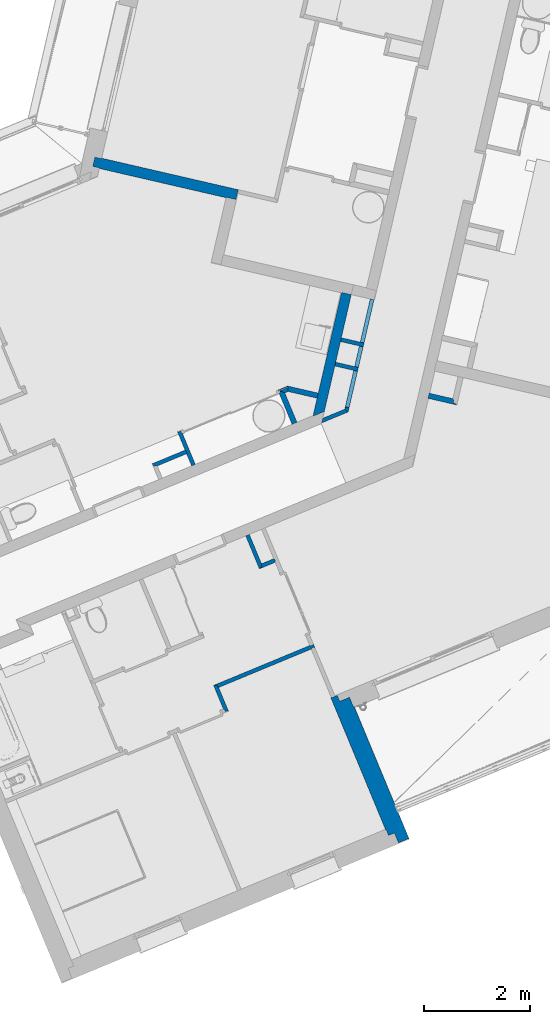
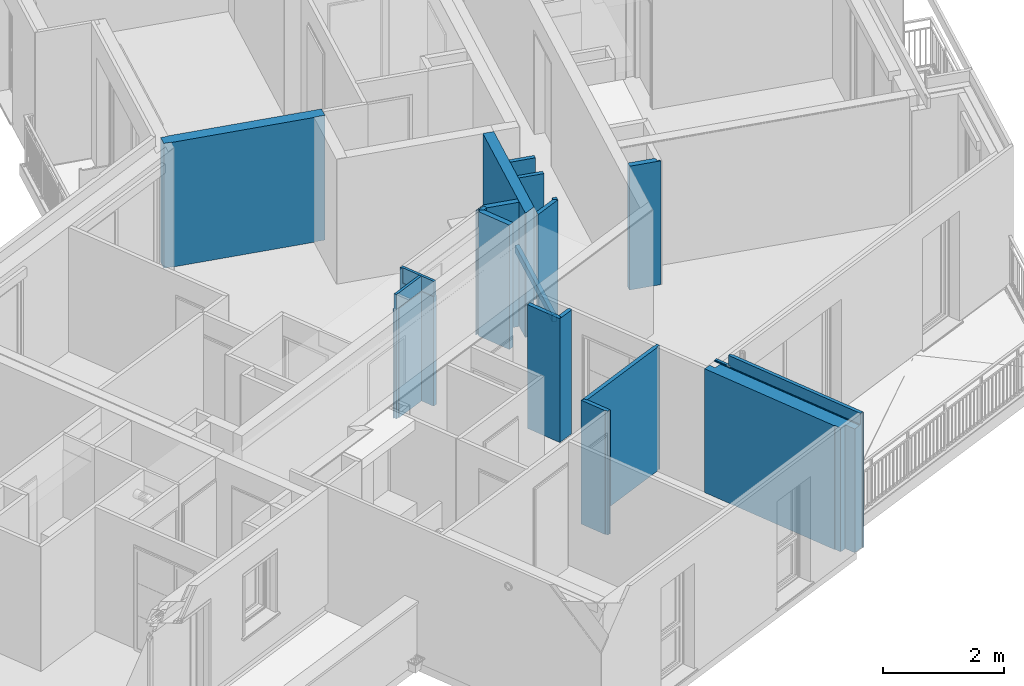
# One storey, part 39 of 91: 18 walls.
"""IFC2X3 building model written with IfcOpenShell, lengths in metres."""

from ifc_helpers import new_model, entity, si_unit, converted_unit, derived_unit, money_unit, direction, frame, origin_with_axes, place, context, subcontext, project, spatial, faceted_brep, material, material_list, type_object, element, save


model = new_model("IFC2X3")

# Units and contexts
model_context = context("Model", 3, precision=1e-05, world=origin_with_axes(), true_north=direction((0.0, 1.0)))
body_context = subcontext(model_context, "Body", "Model", "MODEL_VIEW")
ifc_project = project(units=[si_unit("LENGTHUNIT", "METRE"), si_unit("AREAUNIT", "SQUARE_METRE"), si_unit("VOLUMEUNIT", "CUBIC_METRE"), converted_unit("PLANEANGLEUNIT", "DEGREE", entity("IfcPlaneAngleMeasure", 0.0174532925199), si_unit("PLANEANGLEUNIT", "RADIAN"), dimensions=[0, 0, 0, 0, 0, 0, 0]), si_unit("SOLIDANGLEUNIT", "STERADIAN"), money_unit("EUR"), converted_unit("TIMEUNIT", "Year", entity("IfcTimeMeasure", 31556926.0), si_unit("TIMEUNIT", "SECOND"), dimensions=[0, 0, 1, 0, 0, 0, 0]), si_unit("MASSUNIT", "GRAM", prefix="KILO"), si_unit("THERMODYNAMICTEMPERATUREUNIT", "DEGREE_CELSIUS"), si_unit("LUMINOUSINTENSITYUNIT", "LUMEN"), si_unit("ENERGYUNIT", "JOULE", prefix="MEGA"), derived_unit("THERMALCONDUCTANCEUNIT", [(si_unit("POWERUNIT", "WATT"), 1), (si_unit("LENGTHUNIT", "METRE"), -1), (si_unit("THERMODYNAMICTEMPERATUREUNIT", "KELVIN"), -1)]), derived_unit("SPECIFICHEATCAPACITYUNIT", [(si_unit("ENERGYUNIT", "JOULE"), 1), (si_unit("MASSUNIT", "GRAM", prefix="KILO"), -1), (si_unit("THERMODYNAMICTEMPERATUREUNIT", "KELVIN"), -1)]), derived_unit("MASSDENSITYUNIT", [(si_unit("MASSUNIT", "GRAM", prefix="KILO"), 1), (si_unit("VOLUMEUNIT", "CUBIC_METRE"), -1)])], contexts=[model_context])

# Site, building, storey
site_placement = place(None, origin_with_axes())
site = spatial("IfcSite", under=ifc_project, at=site_placement, Name="Site", CompositionType="ELEMENT")
building_placement = place(site_placement, origin_with_axes())
building = spatial("IfcBuilding", under=site, at=building_placement, Name="Bâtiment", CompositionType="ELEMENT")
storey_placement = place(building_placement, frame((0.0, 0.0, 5.44), z_axis=(0.0, 0.0, 1.0), x_axis=(1.0, 0.0, 0.0)))
storey = spatial("IfcBuildingStorey", under=building, at=storey_placement, Name="R+2", CompositionType="ELEMENT", Elevation=5.44)

# Walls
ifc_material_1 = material(Name="Cloison - Carreaux de plâtre")
wall_type_1 = type_object("IfcWallType", Name="Cloison - Carreaux de plâtre 74", PredefinedType="USERDEFINED")
wall_1_placement = place(storey_placement, frame((-14.2603679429, -15.3325991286, 0.0), z_axis=(0.0, 0.0, 1.0), x_axis=(-0.224876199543, -0.974387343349, 0.0)))
element("IfcWall", 1, at=wall_1_placement, inside=storey, type_object=wall_type_1, material=ifc_material_1, Name="Carreaux de plâtre 8cm", ObjectType="PARTITIONING", context=body_context, shape_type="Brep", body=[
    faceted_brep([(2.0880083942, 0.0, 0.15), (2.0880083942, 0.0, 0.0), (0.0, 0.0, 0.0), (0.0, 0.0, 0.15), (2.0880083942, -0.074, 0.15), (2.0880083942, -0.074, 0.0), (0.0, -0.074, 0.0), (0.0, -0.074, 0.15)], [[[0, 1, 2, 3]], [[4, 5, 1, 0]], [[1, 5, 6, 2]], [[2, 6, 7, 3]], [[4, 0, 3, 7]], [[5, 4, 7, 6]]]),
])
wall_2_placement = place(storey_placement, frame((-15.2595237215, -17.6608345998, 0.0), z_axis=(0.0, 0.0, 1.0), x_axis=(0.923701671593, 0.383112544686, 0.0)))
element("IfcWall", 2, at=wall_2_placement, inside=storey, type_object=wall_type_1, material=ifc_material_1, Name="Carreaux de plâtre 8cm", ObjectType="PARTITIONING", context=body_context, shape_type="Brep", body=[
    faceted_brep([(0.514805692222, 0.074, 2.5), (0.514805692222, 0.074, 0.0), (0.0651136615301, 0.074, 0.0), (0.0651136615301, 0.074, 2.5), (0.552900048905, 0.0, 2.5), (0.552900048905, 0.0, 0.0), (0.0122866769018, 0.0, 0.0), (0.0122866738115, -4.32441460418e-09, 2.5)], [[[0, 1, 2, 3]], [[4, 5, 1, 0]], [[1, 5, 6, 2]], [[2, 6, 7, 3]], [[4, 0, 3, 7]], [[5, 4, 7, 6]]]),
])
wall_3_placement = place(storey_placement, frame((-14.5715853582, -16.6811024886, 0.0), z_axis=(0.0, 0.0, 1.0), x_axis=(-0.974387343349, 0.224876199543, 0.0)))
element("IfcWall", 3, at=wall_3_placement, inside=storey, type_object=wall_type_1, material=ifc_material_1, Name="Carreaux de plâtre 8cm", ObjectType="PARTITIONING", context=body_context, shape_type="Brep", body=[
    faceted_brep([(0.0, -0.074, 2.5), (0.0, 0.0, 2.5), (0.0, 0.0, 0.15), (0.0, -0.074, 0.15), (0.440000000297, -0.074, 2.5), (0.440000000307, 0.0, 2.5), (0.440000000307, 0.0, 0.0), (0.0740000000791, 0.0, 0.0), (0.0740000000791, 0.0, 0.15), (0.0740000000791, -0.074, 0.15), (0.0740000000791, -0.074, 0.0), (0.440000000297, -0.074, 0.0)], [[[0, 1, 2, 3]], [[0, 4, 5, 1]], [[6, 7, 8, 2, 1, 5]], [[2, 8, 9, 3]], [[0, 3, 9, 10, 11, 4]], [[6, 5, 4, 11]], [[6, 11, 10, 7]], [[8, 7, 10, 9]]]),
])
wall_4_placement = place(storey_placement, frame((-14.4649940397, -16.2192428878, 0.0), z_axis=(0.0, 0.0, 1.0), x_axis=(-0.974387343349, 0.224876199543, 0.0)))
element("IfcWall", 4, at=wall_4_placement, inside=storey, type_object=wall_type_1, material=ifc_material_1, Name="Carreaux de plâtre 8cm", ObjectType="PARTITIONING", context=body_context, shape_type="Brep", body=[
    faceted_brep([(0.0, -0.074, 2.5), (0.0, 0.0, 2.5), (0.0, 0.0, 0.15), (0.0, -0.074, 0.15), (0.440000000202, -0.074, 2.5), (0.440000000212, 0.0, 2.5), (0.440000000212, 0.0, 0.0), (0.0740000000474, 0.0, 0.0), (0.0740000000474, 0.0, 0.15), (0.0740000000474, -0.074, 0.15), (0.0740000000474, -0.074, 0.0), (0.440000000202, -0.074, 0.0)], [[[0, 1, 2, 3]], [[0, 4, 5, 1]], [[6, 7, 8, 2, 1, 5]], [[2, 8, 9, 3]], [[0, 3, 9, 10, 11, 4]], [[6, 5, 4, 11]], [[6, 11, 10, 7]], [[8, 7, 10, 9]]]),
])
wall_5_placement = place(storey_placement, frame((-14.7299113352, -17.3671280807, 0.0), z_axis=(0.0, 0.0, 1.0), x_axis=(-0.224876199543, -0.974387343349, 0.0)))
element("IfcWall", 5, at=wall_5_placement, inside=storey, type_object=wall_type_1, material=ifc_material_1, Name="Carreaux de plâtre 8cm", ObjectType="PARTITIONING", context=body_context, shape_type="Brep", body=[
    faceted_brep([(0.0, 0.0, 2.5), (0.0, -0.074, 2.5), (0.0459416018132, -0.074, 2.5), (0.0840359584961, 0.0, 2.5), (0.0, 0.0, 0.15), (0.0, -0.074, 0.15), (0.0, -0.074, 0.0), (0.0459416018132, -0.074, 0.0), (0.0840359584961, 0.0, 0.0), (0.0, 0.0, 0.0)], [[[0, 1, 2, 3]], [[1, 0, 4, 5]], [[5, 6, 7, 2, 1]], [[7, 8, 3, 2]], [[3, 8, 9, 4, 0]], [[9, 6, 5, 4]], [[9, 8, 7, 6]]]),
])
ifc_material_2 = material(Name="Finition int - Plaque de plâtre")
ifc_material_3 = material(Name="Isolation - Laine de roche")
ifc_material_list_1 = material_list([ifc_material_2, ifc_material_3, ifc_material_2])
wall_type_2 = type_object("IfcWallType", Name="3 - Cloison 72mm Placostil 74", PredefinedType="USERDEFINED")
wall_6_placement = place(storey_placement, frame((-17.0353278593, -23.0286213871, 0.0), z_axis=(0.0, 0.0, 1.0), x_axis=(-0.383112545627, 0.923701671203, 0.0)))
element("IfcWall", 6, at=wall_6_placement, inside=storey, type_object=wall_type_2, material=ifc_material_list_1, Name="Cloison Placostil 72/48", ObjectType="PARTITIONING", context=body_context, shape_type="Brep", body=[
    faceted_brep([(0.483900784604, 0.061, 2.49), (-0.0129999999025, 0.061, 2.49), (-0.0129999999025, 0.061, 0.0), (0.483900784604, 0.061, 0.0), (-0.0129999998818, 0.074, 2.49), (0.483900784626, 0.074, 2.49), (-0.0129999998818, 0.074, 0.0), (0.483900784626, 0.074, 0.0)], [[[0, 1, 2, 3]], [[4, 1, 0, 5]], [[1, 4, 6, 2]], [[7, 3, 2, 6]], [[5, 0, 3, 7]], [[4, 5, 7, 6]]]),
    faceted_brep([(0.470900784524, 0.013, 2.49), (-0.0609999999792, 0.013, 2.49), (-0.0609999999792, 0.013, 0.0), (0.470900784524, 0.013, 0.0), (-0.0609999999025, 0.061, 2.49), (0.470900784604, 0.061, 2.49), (-0.0609999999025, 0.061, 0.0), (0.470900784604, 0.061, 0.0)], [[[0, 1, 2, 3]], [[4, 1, 0, 5]], [[1, 4, 6, 2]], [[7, 3, 2, 6]], [[5, 0, 3, 7]], [[4, 5, 7, 6]]]),
    faceted_brep([(0.422900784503, 0.0, 2.49), (-0.074, 0.0, 2.49), (-0.074, 0.0, 0.0), (0.422900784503, 0.0, 0.0), (-0.0739999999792, 0.013, 2.49), (0.422900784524, 0.013, 2.49), (-0.0739999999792, 0.013, 0.0), (0.422900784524, 0.013, 0.0)], [[[0, 1, 2, 3]], [[4, 1, 0, 5]], [[1, 4, 6, 2]], [[7, 3, 2, 6]], [[5, 0, 3, 7]], [[4, 5, 7, 6]]]),
])
wall_7_placement = place(storey_placement, frame((-16.423962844, -20.4107605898, 0.0), z_axis=(0.0, 0.0, 1.0), x_axis=(0.92370167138, 0.383112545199, 0.0)))
element("IfcWall", 7, at=wall_7_placement, inside=storey, type_object=wall_type_2, material=ifc_material_list_1, Name="Cloison Placostil 72/48", ObjectType="PARTITIONING", context=body_context, shape_type="Brep", body=[
    faceted_brep([(0.323540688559, 0.074, 2.49), (0.323540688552, 0.061, 2.49), (0.323540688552, 0.061, 0.0), (0.323540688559, 0.074, 0.0), (0.0740000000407, 0.061, 2.49), (0.0740000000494, 0.074, 2.49), (0.0740000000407, 0.061, 0.0), (0.0740000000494, 0.074, 0.0)], [[[0, 1, 2, 3]], [[4, 1, 0, 5]], [[1, 4, 6, 2]], [[3, 2, 6, 7]], [[5, 0, 3, 7]], [[4, 5, 7, 6]]]),
    faceted_brep([(0.336540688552, 0.061, 2.49), (0.336540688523, 0.013, 2.49), (0.336540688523, 0.013, 0.0), (0.336540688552, 0.061, 0.0), (0.0610000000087, 0.013, 2.49), (0.0610000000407, 0.061, 2.49), (0.0610000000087, 0.013, 0.0), (0.0610000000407, 0.061, 0.0)], [[[0, 1, 2, 3]], [[4, 1, 0, 5]], [[1, 4, 6, 2]], [[3, 2, 6, 7]], [[5, 0, 3, 7]], [[4, 5, 7, 6]]]),
    faceted_brep([(0.323540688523, 0.013, 2.49), (0.323540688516, 0.0, 2.49), (0.323540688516, 0.0, 0.0), (0.323540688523, 0.013, 0.0), (0.013, 0.0, 2.49), (0.0130000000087, 0.013, 2.49), (0.013, 0.0, 0.0), (0.0130000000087, 0.013, 0.0)], [[[0, 1, 2, 3]], [[4, 1, 0, 5]], [[1, 4, 6, 2]], [[3, 2, 6, 7]], [[5, 0, 3, 7]], [[4, 5, 7, 6]]]),
])
wall_8_placement = place(storey_placement, frame((-17.2207163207, -22.5816414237, 0.0), z_axis=(0.0, 0.0, 1.0), x_axis=(0.923701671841, 0.383112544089, 0.0)))
element("IfcWall", 8, at=wall_8_placement, inside=storey, type_object=wall_type_2, material=ifc_material_list_1, Name="Cloison Placostil 72/48", ObjectType="PARTITIONING", context=body_context, shape_type="Brep", body=[
    faceted_brep([(1.90419488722, 0.0, 2.49), (1.90419488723, -0.013, 2.49), (1.90419488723, -0.013, 0.0), (1.90419488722, 0.0, 0.0), (-0.0609999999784, -0.013, 2.49), (-0.061, 0.0, 2.49), (-0.0609999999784, -0.013, 0.0), (-0.061, 0.0, 0.0)], [[[0, 1, 2, 3]], [[4, 1, 0, 5]], [[1, 4, 6, 2]], [[3, 2, 6, 7]], [[5, 0, 3, 7]], [[4, 5, 7, 6]]]),
    faceted_brep([(1.96519488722, 0.0, 2.49), (1.96519488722, -0.013, 2.49), (1.96519488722, -0.013, 0.0), (1.96519488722, 0.0, 0.0), (1.95219488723, -0.013, 2.49), (1.95219488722, 0.0, 2.49), (1.95219488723, -0.013, 0.0), (1.95219488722, 0.0, 0.0)], [[[0, 1, 2, 3]], [[4, 1, 0, 5]], [[1, 4, 6, 2]], [[7, 3, 2, 6]], [[5, 0, 3, 7]], [[4, 5, 7, 6]]]),
    faceted_brep([(1.96519488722, -0.013, 2.49), (1.96519488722, -0.061, 2.49), (1.96519488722, -0.061, 0.0), (1.96519488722, -0.013, 0.0), (-0.0129999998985, -0.061, 2.49), (-0.0129999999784, -0.013, 2.49), (-0.0129999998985, -0.061, 0.0), (-0.0129999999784, -0.013, 0.0)], [[[0, 1, 2, 3]], [[4, 1, 0, 5]], [[1, 4, 6, 2]], [[7, 3, 2, 6]], [[5, 0, 3, 7]], [[4, 5, 7, 6]]]),
    faceted_brep([(1.90419488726, -0.061, 2.49), (1.90419488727, -0.074, 2.49), (1.90419488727, -0.074, 0.0), (1.90419488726, -0.061, 0.0), (1.23140608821e-10, -0.074, 2.49), (1.01504582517e-10, -0.061, 2.49), (1.23140608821e-10, -0.074, 0.0), (1.01504582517e-10, -0.061, 0.0)], [[[0, 1, 2, 3]], [[4, 1, 0, 5]], [[1, 4, 6, 2]], [[3, 2, 6, 7]], [[5, 0, 3, 7]], [[4, 5, 7, 6]]]),
    faceted_brep([(1.96519488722, -0.061, 2.49), (1.96519488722, -0.074, 2.49), (1.96519488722, -0.074, 0.0), (1.96519488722, -0.061, 0.0), (1.95219488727, -0.074, 2.49), (1.95219488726, -0.061, 2.49), (1.95219488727, -0.074, 0.0), (1.95219488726, -0.061, 0.0)], [[[0, 1, 2, 3]], [[4, 1, 0, 5]], [[1, 4, 6, 2]], [[7, 3, 2, 6]], [[5, 0, 3, 7]], [[4, 5, 7, 6]]]),
])
wall_9_placement = place(storey_placement, frame((-17.7023301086, -18.4683136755, 0.0), z_axis=(0.0, 0.0, 1.0), x_axis=(-0.383112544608, 0.923701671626, 0.0)))
element("IfcWall", 9, at=wall_9_placement, inside=storey, type_object=wall_type_2, material=ifc_material_list_1, Name="Cloison Placostil 72/48", ObjectType="PARTITIONING", context=body_context, shape_type="Brep", body=[
    faceted_brep([(0.263000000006, -0.013, 2.2), (-1.30341959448e-10, -0.013, 2.2), (0.0, -0.013, 0.0), (0.263000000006, -0.013, 0.0), (-1.37095668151e-10, 0.0, 2.2), (0.263, 0.0, 2.2), (0.0, 0.0, 0.0), (0.263, 0.0, 0.0)], [[[0, 1, 2, 3]], [[4, 1, 0, 5]], [[1, 4, 6, 2]], [[7, 3, 2, 6]], [[5, 0, 3, 7]], [[4, 5, 7, 6]]]),
    faceted_brep([(0.649999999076, -0.013, 2.5), (0.649999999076, -0.013, 2.2), (0.311000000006, -0.013, 2.2), (0.311000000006, -0.013, 0.0), (0.69999999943, -0.013, 0.0), (0.69999999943, -0.013, 2.5), (0.64999999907, 0.0, 2.5), (0.64999999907, 0.0, 2.2), (0.311, 0.0, 2.2), (0.311, 0.0, 0.0), (0.699999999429, 0.0, 0.0), (0.699999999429, 0.0, 2.5)], [[[0, 1, 2, 3, 4, 5]], [[1, 0, 6, 7]], [[8, 2, 1, 7]], [[2, 8, 9, 3]], [[10, 4, 3, 9]], [[11, 5, 4, 10]], [[6, 0, 5, 11]], [[7, 6, 11, 10, 9, 8]]]),
    faceted_brep([(0.686999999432, -0.061, 2.5), (0.68699999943, -0.013, 2.5), (0.0, -0.013, 2.5), (0.0, -0.061, 2.5), (0.686999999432, -0.061, 0.0), (0.68699999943, -0.013, 0.0), (0.0, -0.013, 0.0), (0.0, -0.061, 0.0)], [[[0, 1, 2, 3]], [[1, 0, 4, 5]], [[1, 5, 6, 2]], [[7, 3, 2, 6]], [[4, 0, 3, 7]], [[5, 4, 7, 6]]]),
    faceted_brep([(0.638999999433, -0.074, 2.2), (0.0, -0.074, 2.2), (0.0, -0.074, 0.0), (0.638999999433, -0.074, 0.0), (-1.0540901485e-10, -0.061, 2.2), (0.638999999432, -0.061, 2.2), (0.0, -0.061, 0.0), (0.638999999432, -0.061, 0.0)], [[[0, 1, 2, 3]], [[4, 1, 0, 5]], [[1, 4, 6, 2]], [[7, 3, 2, 6]], [[5, 0, 3, 7]], [[4, 5, 7, 6]]]),
])
wall_10_placement = place(storey_placement, frame((-17.826458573, -18.1690343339, 0.0), z_axis=(0.0, 0.0, 1.0), x_axis=(-0.923701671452, -0.383112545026, 0.0)))
element("IfcWall", 10, at=wall_10_placement, inside=storey, type_object=wall_type_2, material=ifc_material_list_1, Name="Cloison Placostil 72/48", ObjectType="PARTITIONING", context=body_context, shape_type="Brep", body=[
    faceted_brep([(0.0, 0.061, 2.2), (0.0, 0.074, 2.2), (0.0, 0.074, 0.0), (0.0, 0.061, 0.0), (0.613000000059, 0.074, 2.2), (0.613000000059, 0.061, 2.2), (0.613000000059, 0.074, 0.0), (0.613000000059, 0.061, 0.0)], [[[0, 1, 2, 3]], [[4, 1, 0, 5]], [[1, 4, 6, 2]], [[6, 7, 3, 2]], [[5, 0, 3, 7]], [[4, 5, 7, 6]]]),
    faceted_brep([(0.661000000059, 0.061, 0.0), (0.661000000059, 0.013, 0.0), (-0.0130000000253, 0.013, 0.0), (-0.0130000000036, 0.061, 0.0), (0.661000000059, 0.061, 2.5), (0.661000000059, 0.013, 2.5), (-0.0130000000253, 0.013, 2.5), (-0.0130000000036, 0.061, 2.5)], [[[0, 1, 2, 3]], [[1, 0, 4, 5]], [[1, 5, 6, 2]], [[7, 3, 2, 6]], [[4, 0, 3, 7]], [[5, 4, 7, 6]]]),
    faceted_brep([(0.0, 0.0, 2.2), (0.0, 0.013, 2.2), (0.0, 0.013, 0.0), (0.0, 0.0, 0.0), (0.674000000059, 0.013, 2.2), (0.674000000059, 0.0, 2.2), (0.674000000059, 0.013, 0.0), (0.674000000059, 0.0, 0.0)], [[[0, 1, 2, 3]], [[4, 1, 0, 5]], [[1, 4, 6, 2]], [[6, 7, 3, 2]], [[5, 0, 3, 7]], [[4, 5, 7, 6]]]),
])
wall_11_placement = place(storey_placement, frame((-16.6821806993, -19.7881856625, 0.0), z_axis=(0.0, 0.0, 1.0), x_axis=(0.383112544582, -0.923701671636, 0.0)))
element("IfcWall", 11, at=wall_11_placement, inside=storey, type_object=wall_type_2, material=ifc_material_list_1, Name="Cloison Placostil 72/48", ObjectType="PARTITIONING", context=body_context, shape_type="Brep", body=[
    faceted_brep([(0.0, 0.074, 2.49), (0.613000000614, 0.074, 2.49), (0.613000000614, 0.074, 0.0), (0.0, 0.074, 0.0), (0.613000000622, 0.061, 2.49), (0.0, 0.061, 2.49), (0.613000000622, 0.061, 0.0), (0.0, 0.061, 0.0)], [[[0, 1, 2, 3]], [[4, 1, 0, 5]], [[1, 4, 6, 2]], [[2, 6, 7, 3]], [[5, 0, 3, 7]], [[4, 5, 7, 6]]]),
    faceted_brep([(0.0, 0.061, 2.49), (0.661000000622, 0.061, 2.49), (0.661000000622, 0.061, 0.0), (0.0, 0.061, 0.0), (0.661000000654, 0.013, 2.49), (0.0, 0.013, 2.49), (0.661000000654, 0.013, 0.0), (0.0, 0.013, 0.0)], [[[0, 1, 2, 3]], [[4, 1, 0, 5]], [[1, 4, 6, 2]], [[2, 6, 7, 3]], [[5, 0, 3, 7]], [[4, 5, 7, 6]]]),
    faceted_brep([(0.0, 0.013, 2.49), (0.674000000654, 0.013, 2.49), (0.674000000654, 0.013, 0.0), (0.0, 0.013, 0.0), (0.674000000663, 0.0, 2.49), (0.0, 0.0, 2.49), (0.674000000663, 0.0, 0.0), (0.0, 0.0, 0.0)], [[[0, 1, 2, 3]], [[4, 1, 0, 5]], [[1, 4, 6, 2]], [[2, 6, 7, 3]], [[5, 0, 3, 7]], [[4, 5, 7, 6]]]),
])
ifc_material_4 = material(Name="Finition int - Enduit plâtre")
ifc_material_5 = material(Name="Béton")
ifc_material_list_2 = material_list([ifc_material_4, ifc_material_5, ifc_material_4])
wall_type_3 = type_object("IfcWallType", Name="2 - Murs Béton 18 + Enduit 2 Faces 200", PredefinedType="USERDEFINED")
wall_12_placement = place(storey_placement, frame((-19.7393073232, -12.5902779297, 0.0), z_axis=(0.0, 0.0, 1.0), x_axis=(0.974387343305, -0.224876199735, 0.0)))
element("IfcWall", 12, at=wall_12_placement, inside=storey, type_object=wall_type_3, material=ifc_material_list_2, Name="M_Ext-008", ObjectType="SOLIDWALL", context=body_context, shape_type="Brep", body=[
    faceted_brep([(0.344999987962, 0.01, 2.51), (2.99998157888, 0.01, 2.51), (2.99998157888, 0.01, 0.0), (0.344999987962, 0.01, 0.0), (2.99998157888, 0.0, 2.51), (0.344999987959, 0.0, 2.51), (2.99998157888, 0.0, 0.0), (0.344999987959, 0.0, 0.0)], [[[0, 1, 2, 3]], [[4, 1, 0, 5]], [[1, 4, 6, 2]], [[6, 7, 3, 2]], [[5, 0, 3, 7]], [[4, 5, 7, 6]]]),
    faceted_brep([(0.214999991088, 0.0, 2.51), (2.98998157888, 0.0, 2.51), (2.98998157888, 0.0, 0.0), (0.214999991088, 0.0, 0.0), (2.98998157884, -0.18, 2.51), (0.214999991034, -0.18, 2.51), (2.98998157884, -0.18, 0.0), (0.214999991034, -0.18, 0.0)], [[[0, 1, 2, 3]], [[4, 1, 0, 5]], [[1, 4, 6, 2]], [[6, 7, 3, 2]], [[5, 0, 3, 7]], [[4, 5, 7, 6]]]),
    faceted_brep([(0.344999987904, -0.18, 2.51), (2.80998157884, -0.18, 2.51), (2.80998157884, -0.18, 0.0), (0.344999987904, -0.18, 0.0), (2.80998157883, -0.19, 2.51), (0.344999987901, -0.19, 2.51), (2.80998157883, -0.19, 0.0), (0.344999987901, -0.19, 0.0)], [[[0, 1, 2, 3]], [[4, 1, 0, 5]], [[1, 4, 6, 2]], [[6, 7, 3, 2]], [[5, 0, 3, 7]], [[4, 5, 7, 6]]]),
])
ifc_material_list_3 = material_list([ifc_material_5, ifc_material_4])
wall_type_4 = type_object("IfcWallType", Name="2 - Murs Béton 18 + Enduit 1 Face 190", PredefinedType="USERDEFINED")
wall_13_placement = place(storey_placement, frame((-14.6988422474, -15.2314048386, 0.0), z_axis=(0.0, 0.0, 1.0), x_axis=(-0.224876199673, -0.974387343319, 0.0)))
element("IfcWall", 13, at=wall_13_placement, inside=storey, type_object=wall_type_4, material=ifc_material_list_3, Name="M_Ext-009", ObjectType="SOLIDWALL", context=body_context, shape_type="Brep", body=[
    faceted_brep([(-1.19925402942e-10, -0.17, 2.51), (0.0, 0.01, 2.51), (0.0, 0.01, 0.0), (-1.19925402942e-10, -0.17, 0.0), (2.2649907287, 0.01, 2.51), (2.39348879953, -0.17, 2.51), (2.26499072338, 0.0100000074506, 0.0), (2.39348879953, -0.17, 0.0)], [[[0, 1, 2, 3]], [[4, 1, 0, 5]], [[1, 4, 6, 2]], [[2, 6, 7, 3]], [[5, 0, 3, 7]], [[4, 5, 7, 6]]]),
    faceted_brep([(0.00999999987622, -0.18, 2.51), (0.00999999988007, -0.17, 2.51), (0.00999999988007, -0.17, 0.0), (0.00999999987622, -0.18, 0.0), (2.38120213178, -0.17, 2.51), (2.38834091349, -0.18, 2.51), (2.38120213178, -0.17, 0.0), (2.38834091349, -0.18, 0.0)], [[[0, 1, 2, 3]], [[4, 1, 0, 5]], [[1, 4, 6, 2]], [[2, 6, 7, 3]], [[5, 0, 3, 7]], [[4, 5, 7, 6]]]),
])
ifc_material_list_4 = material_list([ifc_material_2, ifc_material_3, ifc_material_2, ifc_material_2])
wall_type_5 = type_object("IfcWallType", Name="3 - Cloison Gaine Technique 98mm 100", PredefinedType="USERDEFINED")
wall_14_placement = place(storey_placement, frame((-16.0750117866, -17.0355501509, 0.0), z_axis=(0.0, 0.0, 1.0), x_axis=(0.923701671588, 0.383112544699, 0.0)))
element("IfcWall", 14, at=wall_14_placement, inside=storey, type_object=wall_type_5, material=ifc_material_list_4, Name="Cloison 98 isolée", ObjectType="PARTITIONING", context=body_context, shape_type="Brep", body=[
    faceted_brep([(0.200046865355, 0.0, 2.5), (0.0, 0.0, 2.5), (0.0129999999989, -0.013, 2.5), (0.195882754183, -0.013, 2.5), (0.200046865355, 0.0, 0.0), (0.0, 0.0, 0.0), (0.0129999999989, -0.013, 0.0), (0.195882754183, -0.013, 0.0)], [[[0, 1, 2, 3]], [[4, 5, 1, 0]], [[1, 5, 6, 2]], [[7, 3, 2, 6]], [[7, 4, 0, 3]], [[4, 7, 6, 5]]]),
    faceted_brep([(0.176343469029, -0.0739999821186, 2.5), (0.191718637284, -0.0260000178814, 2.5), (0.0260000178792, -0.0260000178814, 2.5), (0.0739999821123, -0.0739999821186, 2.5), (0.176343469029, -0.0739999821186, 0.0), (0.191718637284, -0.0260000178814, 0.0), (0.0260000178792, -0.0260000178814, 0.0), (0.0739999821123, -0.0739999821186, 0.0)], [[[0, 1, 2, 3]], [[4, 5, 1, 0]], [[1, 5, 6, 2]], [[2, 6, 7, 3]], [[4, 0, 3, 7]], [[5, 4, 7, 6]]]),
    faceted_brep([(0.17217935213, -0.087, 2.5), (0.176343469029, -0.0739999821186, 2.5), (0.0739999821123, -0.0739999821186, 2.5), (0.0869999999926, -0.087, 2.5), (0.17217935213, -0.087, 0.0), (0.176343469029, -0.0739999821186, 0.0), (0.0739999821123, -0.0739999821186, 0.0), (0.0869999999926, -0.087, 0.0)], [[[0, 1, 2, 3]], [[4, 5, 1, 0]], [[1, 5, 6, 2]], [[2, 6, 7, 3]], [[4, 0, 3, 7]], [[5, 4, 7, 6]]]),
    faceted_brep([(0.168015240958, -0.1, 2.5), (0.17217935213, -0.087, 2.5), (0.0869999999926, -0.087, 2.5), (0.0999999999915, -0.1, 2.5), (0.168015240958, -0.1, 0.0), (0.17217935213, -0.087, 0.0), (0.0869999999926, -0.087, 0.0), (0.0999999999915, -0.1, 0.0)], [[[0, 1, 2, 3]], [[4, 5, 1, 0]], [[1, 5, 6, 2]], [[2, 6, 7, 3]], [[4, 0, 3, 7]], [[5, 4, 7, 6]]]),
])
ifc_material_list_5 = material_list([ifc_material_2, ifc_material_2, ifc_material_3, ifc_material_2, ifc_material_2])
wall_15_placement = place(storey_placement, frame((-12.6968138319, -17.3181034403, 0.0), z_axis=(0.0, 0.0, 1.0), x_axis=(-0.97438734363, 0.224876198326, 0.0)))
element("IfcWall", 15, at=wall_15_placement, inside=storey, type_object=wall_type_5, material=ifc_material_list_5, Name="Cloison 98 isolée", ObjectType="PARTITIONING", context=body_context, shape_type="Brep", body=[
    faceted_brep([(0.558379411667, -0.013, 2.5), (0.558379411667, -0.013, 2.49), (0.0129999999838, -0.013, 2.49), (0.0129999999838, -0.013, 0.0), (0.559999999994, -0.013, 0.0), (0.559999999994, -0.013, 2.5), (0.558395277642, 0.0, 2.5), (0.558395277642, 0.0, 2.49), (0.013, 0.0, 2.49), (0.013, 0.0, 0.0), (0.56000000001, 0.0, 0.0), (0.56000000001, 0.0, 2.5)], [[[0, 1, 2, 3, 4, 5]], [[1, 0, 6, 7]], [[8, 2, 1, 7]], [[2, 8, 9, 3]], [[10, 4, 3, 9]], [[11, 5, 4, 10]], [[6, 0, 5, 11]], [[7, 6, 11, 10, 9, 8]]]),
    faceted_brep([(0.558363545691, -0.026, 2.5), (0.558363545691, -0.026, 2.49), (0.0259999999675, -0.026, 2.49), (0.0259999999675, -0.026, 0.0), (0.559999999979, -0.026, 0.0), (0.559999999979, -0.026, 2.5), (0.558379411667, -0.013, 2.5), (0.558379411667, -0.013, 2.49), (0.0259999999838, -0.013, 2.49), (0.0259999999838, -0.013, 0.0), (0.559999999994, -0.013, 0.0), (0.559999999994, -0.013, 2.5)], [[[0, 1, 2, 3, 4, 5]], [[1, 0, 6, 7]], [[8, 2, 1, 7]], [[2, 8, 9, 3]], [[10, 4, 3, 9]], [[11, 5, 4, 10]], [[6, 0, 5, 11]], [[7, 6, 11, 10, 9, 8]]]),
    faceted_brep([(0.558304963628, -0.074, 2.5), (0.558304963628, -0.074, 2.49), (0.0739999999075, -0.074, 2.49), (0.0739999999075, -0.074, 0.0), (0.559999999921, -0.074, 0.0), (0.559999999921, -0.074, 2.5), (0.558363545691, -0.026, 2.5), (0.558363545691, -0.026, 2.49), (0.0739999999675, -0.026, 2.49), (0.0739999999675, -0.026, 0.0), (0.559999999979, -0.026, 0.0), (0.559999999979, -0.026, 2.5)], [[[0, 1, 2, 3, 4, 5]], [[1, 0, 6, 7]], [[8, 2, 1, 7]], [[2, 8, 9, 3]], [[10, 4, 3, 9]], [[11, 5, 4, 10]], [[6, 0, 5, 11]], [[7, 6, 11, 10, 9, 8]]]),
    faceted_brep([(0.558289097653, -0.087, 2.5), (0.558289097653, -0.087, 2.49), (0.0869999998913, -0.087, 2.49), (0.0869999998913, -0.087, 0.0), (0.559999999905, -0.087, 0.0), (0.559999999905, -0.087, 2.5), (0.558304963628, -0.074, 2.5), (0.558304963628, -0.074, 2.49), (0.0869999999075, -0.074, 2.49), (0.0869999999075, -0.074, 0.0), (0.559999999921, -0.074, 0.0), (0.559999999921, -0.074, 2.5)], [[[0, 1, 2, 3, 4, 5]], [[1, 0, 6, 7]], [[8, 2, 1, 7]], [[2, 8, 9, 3]], [[10, 4, 3, 9]], [[11, 5, 4, 10]], [[6, 0, 5, 11]], [[7, 6, 11, 10, 9, 8]]]),
    faceted_brep([(0.558273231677, -0.1, 2.5), (0.558273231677, -0.1, 2.49), (0.099999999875, -0.1, 2.49), (0.099999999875, -0.1, 0.0), (0.55999999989, -0.1, 0.0), (0.55999999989, -0.1, 2.5), (0.558289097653, -0.087, 2.5), (0.558289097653, -0.087, 2.49), (0.0999999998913, -0.087, 2.49), (0.0999999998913, -0.087, 0.0), (0.559999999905, -0.087, 0.0), (0.559999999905, -0.087, 2.5)], [[[0, 1, 2, 3, 4, 5]], [[1, 0, 6, 7]], [[8, 2, 1, 7]], [[2, 8, 9, 3]], [[10, 4, 3, 9]], [[11, 5, 4, 10]], [[6, 0, 5, 11]], [[7, 6, 11, 10, 9, 8]]]),
])
wall_16_placement = place(storey_placement, frame((-16.0750117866, -17.0355501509, 0.0), z_axis=(0.0, 0.0, 1.0), x_axis=(0.383112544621, -0.92370167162, 0.0)))
element("IfcWall", 16, at=wall_16_placement, inside=storey, type_object=wall_type_5, material=ifc_material_list_5, Name="Cloison 98 isolée", ObjectType="PARTITIONING", context=body_context, shape_type="Brep", body=[
    faceted_brep([(0.699999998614, 0.1, 2.5), (0.699999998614, 0.1, 0.0), (0.0999999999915, 0.1, 0.0), (0.0999999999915, 0.1, 2.5), (0.699999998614, 0.087, 2.5), (0.699999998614, 0.087, 0.0), (0.0869999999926, 0.087, 0.0), (0.0869999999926, 0.087, 2.5)], [[[0, 1, 2, 3]], [[0, 4, 5, 1]], [[1, 5, 6, 2]], [[2, 6, 7, 3]], [[4, 0, 3, 7]], [[5, 4, 7, 6]]]),
    faceted_brep([(0.699999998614, 0.087, 2.5), (0.699999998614, 0.087, 0.0), (0.0869999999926, 0.087, 0.0), (0.0869999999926, 0.087, 2.5), (0.699999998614, 0.074, 2.5), (0.699999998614, 0.074, 0.0), (0.0739999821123, 0.0739999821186, 0.0), (0.0739999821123, 0.0739999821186, 2.5)], [[[0, 1, 2, 3]], [[0, 4, 5, 1]], [[1, 5, 6, 2]], [[2, 6, 7, 3]], [[4, 0, 3, 7]], [[5, 4, 7, 6]]]),
    faceted_brep([(0.699999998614, 0.074, 2.5), (0.699999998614, 0.074, 0.0), (0.0739999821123, 0.0739999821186, 0.0), (0.0739999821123, 0.0739999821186, 2.5), (0.699999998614, 0.026, 2.5), (0.699999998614, 0.026, 0.0), (0.0260000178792, 0.0260000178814, 0.0), (0.0260000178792, 0.0260000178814, 2.5)], [[[0, 1, 2, 3]], [[0, 4, 5, 1]], [[1, 5, 6, 2]], [[2, 6, 7, 3]], [[4, 0, 3, 7]], [[5, 4, 7, 6]]]),
    faceted_brep([(0.699999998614, 0.026, 0.0), (0.0609999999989, 0.0260000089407, 0.0), (0.0609999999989, 0.0260000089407, 2.5), (0.699999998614, 0.026, 2.5), (0.699999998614, 0.013, 0.0), (0.0609999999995, 0.013, 0.0), (0.0609999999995, 0.013, 2.5), (0.699999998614, 0.013, 2.5)], [[[0, 1, 2, 3]], [[4, 5, 1, 0]], [[5, 6, 2, 1]], [[3, 2, 6, 7]], [[3, 7, 4, 0]], [[7, 6, 5, 4]]]),
    faceted_brep([(0.0, 0.0, 2.5), (0.013, 0.0, 2.5), (0.0129999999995, 0.013, 2.5), (0.0, 0.0, 0.0), (0.013, 0.0, 0.0), (0.0129999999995, 0.013, 0.0)], [[[0, 1, 2]], [[3, 4, 1, 0]], [[4, 5, 2, 1]], [[0, 2, 5, 3]], [[3, 5, 4]]]),
    faceted_brep([(0.699999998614, 0.013, 0.0), (0.0609999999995, 0.013, 0.0), (0.0609999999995, 0.013, 2.5), (0.699999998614, 0.013, 2.5), (0.699999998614, 0.0, 0.0), (0.061, 0.0, 0.0), (0.061, 0.0, 2.5), (0.699999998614, 0.0, 2.5)], [[[0, 1, 2, 3]], [[4, 5, 1, 0]], [[5, 6, 2, 1]], [[3, 2, 6, 7]], [[3, 7, 4, 0]], [[7, 6, 5, 4]]]),
])
wall_17_placement = place(storey_placement, frame((-15.8902281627, -16.9589096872, 0.0), z_axis=(0.0, 0.0, 1.0), x_axis=(0.974387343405, -0.224876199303, 0.0)))
element("IfcWall", 17, at=wall_17_placement, inside=storey, type_object=wall_type_5, material=ifc_material_list_5, Name="Cloison 98 isolée", ObjectType="PARTITIONING", context=body_context, shape_type="Brep", body=[
    faceted_brep([(0.0, 0.0, 2.5), (0.0041641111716, -0.013, 2.5), (0.592396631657, -0.013, 2.5), (0.592396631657, 0.0, 2.5), (0.0, 0.0, 0.0), (0.0041641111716, -0.013, 0.0), (0.592396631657, -0.013, 0.0), (0.592396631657, 0.0, 0.0)], [[[0, 1, 2, 3]], [[4, 5, 1, 0]], [[2, 1, 5, 6]], [[7, 3, 2, 6]], [[4, 0, 3, 7]], [[6, 5, 4, 7]]]),
    faceted_brep([(0.592396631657, -0.013, 2.5), (0.0041641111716, -0.013, 2.5), (0.00832822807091, -0.0260000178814, 2.5), (0.592396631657, -0.026, 2.5), (0.592396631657, -0.013, 0.0), (0.0041641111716, -0.013, 0.0), (0.00832822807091, -0.0260000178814, 0.0), (0.592396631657, -0.026, 0.0)], [[[0, 1, 2, 3]], [[4, 5, 1, 0]], [[5, 6, 2, 1]], [[3, 2, 6, 7]], [[4, 0, 3, 7]], [[7, 6, 5, 4]]]),
    faceted_brep([(0.592396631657, -0.026, 2.5), (0.00832822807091, -0.0260000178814, 2.5), (0.023703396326, -0.0739999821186, 2.5), (0.592396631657, -0.074, 2.5), (0.592396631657, -0.026, 0.0), (0.00832822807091, -0.0260000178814, 0.0), (0.023703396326, -0.0739999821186, 0.0), (0.592396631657, -0.074, 0.0)], [[[0, 1, 2, 3]], [[4, 5, 1, 0]], [[5, 6, 2, 1]], [[3, 2, 6, 7]], [[4, 0, 3, 7]], [[7, 6, 5, 4]]]),
    faceted_brep([(0.592396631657, -0.074, 2.5), (0.023703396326, -0.0739999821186, 2.5), (0.0278675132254, -0.087, 2.5), (0.592396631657, -0.087, 2.5), (0.592396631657, -0.074, 0.0), (0.023703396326, -0.0739999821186, 0.0), (0.0278675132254, -0.087, 0.0), (0.592396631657, -0.087, 0.0)], [[[0, 1, 2, 3]], [[4, 5, 1, 0]], [[5, 6, 2, 1]], [[3, 2, 6, 7]], [[4, 0, 3, 7]], [[7, 6, 5, 4]]]),
    faceted_brep([(0.592396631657, -0.087, 2.5), (0.0278675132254, -0.087, 2.5), (0.032031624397, -0.1, 2.5), (0.592396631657, -0.1, 2.5), (0.592396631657, -0.087, 0.0), (0.0278675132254, -0.087, 0.0), (0.032031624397, -0.1, 0.0), (0.592396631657, -0.1, 0.0)], [[[0, 1, 2, 3]], [[4, 5, 1, 0]], [[5, 6, 2, 1]], [[3, 2, 6, 7]], [[4, 0, 3, 7]], [[7, 6, 5, 4]]]),
])
ifc_material_6 = material(Name="Finition ext - Crépis")
ifc_material_7 = material(Name="Béton cellulaire")
ifc_material_8 = material(Name="Mortier")
ifc_material_9 = material(Name="Bloc ELITHERM")
ifc_material_10 = material(Name="Isolation - Polystyrène extrudé")
ifc_material_list_6 = material_list([ifc_material_6, ifc_material_7, ifc_material_8, ifc_material_9, ifc_material_10, ifc_material_2])
wall_type_6 = type_object("IfcWallType", Name="Mur ALKERN + planelle 23 345 x 2720", PredefinedType="USERDEFINED")
wall_18_placement = place(storey_placement, frame((-14.6264330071, -23.0257640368, 0.0), z_axis=(0.0, 0.0, 1.0), x_axis=(0.383112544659, -0.923701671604, 0.0)))
element("IfcWall", 18, at=wall_18_placement, inside=storey, type_object=wall_type_6, material=ifc_material_list_6, Name="Mue bloc ALKERN isolé", ObjectType="SOLIDWALL", context=body_context, shape_type="Brep", body=[
    faceted_brep([(-0.015, 0.0, 2.72), (2.69376150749, 0.0, 2.72), (2.69376150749, 0.0, 0.0), (2.14499999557, 0.0, 0.0), (2.14499999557, 0.0, 0.01), (2.13501946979, 0.0, 0.0193762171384), (1.99498052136, 0.0, 0.0106237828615), (1.98499999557, 0.0, 0.0), (-0.015, 0.0, 0.0), (-0.015, -0.0149999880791, 2.72), (2.69376150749, -0.0149999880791, 2.72), (2.69376150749, -0.0149999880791, 0.0), (2.14499999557, -0.0150000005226, 0.0), (2.14499999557, -0.0150000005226, 0.01), (2.13501946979, -0.0150000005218, 0.0193762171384), (1.99498052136, -0.0150000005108, 0.0106237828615), (1.98499999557, -0.01500000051, 0.0), (-0.015, -0.0149999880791, 0.0)], [[[0, 1, 2, 3, 4, 5, 6, 7, 8]], [[1, 0, 9, 10]], [[10, 11, 2, 1]], [[11, 12, 3, 2]], [[13, 4, 3, 12]], [[14, 5, 4, 13]], [[15, 6, 5, 14]], [[16, 7, 6, 15]], [[8, 7, 16, 17]], [[17, 9, 0, 8]], [[10, 9, 17, 16, 15, 14, 13, 12, 11]]]),
    faceted_brep([(2.67876153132, -0.0630000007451, 2.72), (2.67876153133, -0.015, 2.72), (-0.0630000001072, -0.015, 2.72), (-0.0630000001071, -0.0630000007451, 2.72), (2.67876153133, -0.015, 2.5), (2.67876153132, -0.0630000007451, 2.5), (-0.344999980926, -0.015, 2.5000000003), (-0.344999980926, -0.015, 2.51000000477), (-0.083, -0.015, 2.51), (-0.015, -0.015, 2.51), (-0.015, -0.015, 2.52), (-0.0630000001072, -0.015, 2.51999999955), (-0.0630000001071, -0.0630000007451, 2.51999999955), (-0.0149999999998, -0.0630000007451, 2.52), (-0.0149999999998, -0.0630000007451, 2.51), (-0.0829999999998, -0.0630000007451, 2.51), (-0.344999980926, -0.0630000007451, 2.51000000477), (-0.344999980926, -0.0630000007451, 2.5000000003)], [[[0, 1, 2, 3]], [[4, 1, 0, 5]], [[1, 4, 6, 7, 8, 9, 10, 11, 2]], [[3, 2, 11, 12]], [[5, 0, 3, 12, 13, 14, 15, 16, 17]], [[4, 5, 17, 6]], [[16, 7, 6, 17]], [[15, 8, 7, 16]], [[9, 8, 15, 14]], [[10, 9, 14, 13]], [[12, 11, 10, 13]]]),
    faceted_brep([(2.67876153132, -0.083, 2.5), (2.67876153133, -0.015, 2.5), (-0.344999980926, -0.015, 2.5), (-0.344999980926, -0.083, 2.5), (2.67876153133, -0.015, 2.49), (2.67876153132, -0.083, 2.49), (-0.344999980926, -0.015, 2.49), (-0.344999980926, -0.083, 2.49)], [[[0, 1, 2, 3]], [[4, 1, 0, 5]], [[1, 4, 6, 2]], [[7, 3, 2, 6]], [[5, 0, 3, 7]], [[4, 5, 7, 6]]]),
    faceted_brep([(2.67876153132, -0.0829999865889, 2.49), (2.67876153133, -0.015, 2.49), (-0.215000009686, -0.015, 2.49), (-0.215000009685, -0.0829999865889, 2.49), (2.67876153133, -0.015, 0.0), (2.67876153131, -0.215, 2.49), (2.67876153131, -0.215, 0.0), (-0.215000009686, -0.015, 0.0), (-0.215000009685, -0.215, 0.0), (-0.215000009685, -0.215, 2.49)], [[[0, 1, 2, 3]], [[4, 1, 0, 5, 6]], [[1, 4, 7, 2]], [[3, 2, 7, 8, 9]], [[5, 0, 3, 9]], [[6, 5, 9, 8]], [[4, 6, 8, 7]]]),
    faceted_brep([(-0.335000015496, -0.334999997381, 2.49), (2.47876151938, -0.334999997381, 2.49000000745), (2.47876151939, -0.214999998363, 2.49000000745), (-0.335000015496, -0.214999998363, 2.49), (-0.335000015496, -0.334999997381, 0.0), (2.47876151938, -0.334999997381, 0.0), (2.47876151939, -0.214999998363, 0.0), (-0.335000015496, -0.214999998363, 0.0)], [[[0, 1, 2, 3]], [[4, 5, 1, 0]], [[5, 6, 2, 1]], [[3, 2, 6, 7]], [[4, 0, 3, 7]], [[7, 6, 5, 4]]]),
    faceted_brep([(-0.344999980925, -0.344999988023, 2.49000000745), (2.358761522, -0.344999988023, 2.49000000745), (2.358761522, -0.334999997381, 2.49000000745), (-0.344999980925, -0.334999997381, 2.49000000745), (-0.344999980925, -0.344999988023, 0.0), (2.358761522, -0.344999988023, 0.0), (2.358761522, -0.334999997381, 0.0), (-0.344999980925, -0.334999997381, 0.0)], [[[0, 1, 2, 3]], [[4, 5, 1, 0]], [[5, 6, 2, 1]], [[3, 2, 6, 7]], [[7, 4, 0, 3]], [[7, 6, 5, 4]]]),
])

save(model, "model.ifc")
